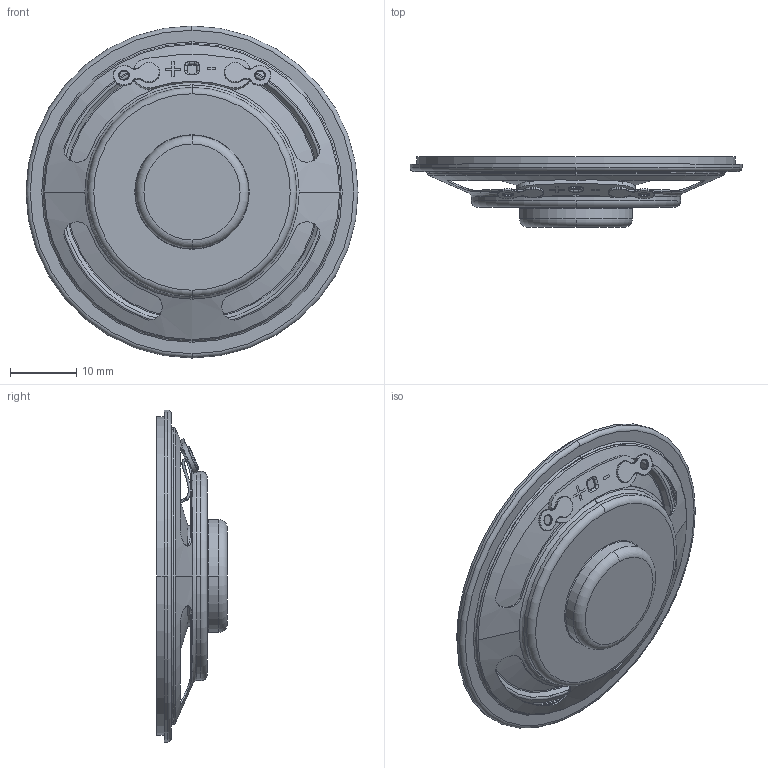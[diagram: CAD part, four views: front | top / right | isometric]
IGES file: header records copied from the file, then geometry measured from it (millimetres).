
Global section: file name: No Iges File Name specified; native system: AutoDesk Inventor R12.0; preprocessor: AutoDesk Inventor Iges Exporter R12.0; date: 20090220.165435; units: millimetre
Bounding box: 50 x 10.6 x 50 mm (x, y, z)
Volume: 4122.3 mm3; surface area: 8640 mm2
Topology: 2 solids, 2 shells, 263 faces, 702 edges, 458 vertices
Faces by surface type: torus 58, revolution 57, plane 53, bspline 46, cylinder 39, cone 10
